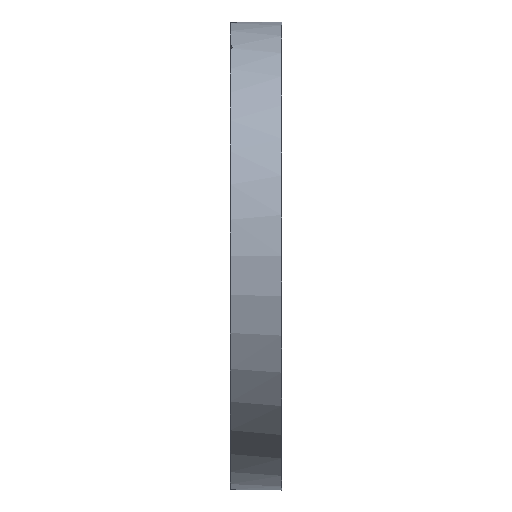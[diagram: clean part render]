
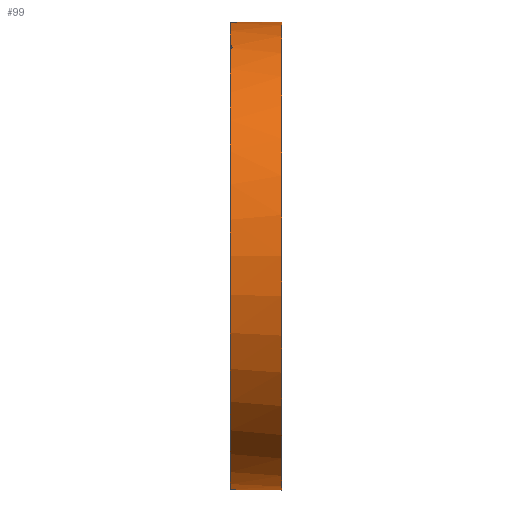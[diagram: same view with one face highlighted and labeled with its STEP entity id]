
A CAD part, top view. The second image highlights one B-rep face of the part: STEP entity #99.
In plain terms, the highlighted cylindrical face has radius 101.5 mm (diameter 203 mm), a full revolution.
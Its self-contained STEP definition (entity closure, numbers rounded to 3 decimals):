
#99 = ADVANCED_FACE( '', ( #242, #243 ), #244, .T. );
#242 = FACE_OUTER_BOUND( '', #417, .T. );
#243 = FACE_OUTER_BOUND( '', #418, .T. );
#244 = CYLINDRICAL_SURFACE( '', #419, 101.5 );
#417 = EDGE_LOOP( '', ( #634 ) );
#418 = EDGE_LOOP( '', ( #635, #636, #637, #638 ) );
#419 = AXIS2_PLACEMENT_3D( '', #639, #640, #641 );
#634 = ORIENTED_EDGE( '', *, *, #804, .T. );
#635 = ORIENTED_EDGE( '', *, *, #789, .F. );
#636 = ORIENTED_EDGE( '', *, *, #806, .F. );
#637 = ORIENTED_EDGE( '', *, *, #767, .F. );
#638 = ORIENTED_EDGE( '', *, *, #807, .F. );
#639 = CARTESIAN_POINT( '', ( -60., 0., 0. ) );
#640 = DIRECTION( '', ( 1., 0., 0. ) );
#641 = DIRECTION( '', ( 0., 0., 1. ) );
#767 = EDGE_CURVE( '', #880, #881, #882, .T. );
#789 = EDGE_CURVE( '', #917, #918, #919, .T. );
#804 = EDGE_CURVE( '', #945, #945, #946, .T. );
#806 = EDGE_CURVE( '', #881, #917, #948, .T. );
#807 = EDGE_CURVE( '', #918, #880, #949, .T. );
#880 = VERTEX_POINT( '', #1029 );
#881 = VERTEX_POINT( '', #1030 );
#882 = B_SPLINE_CURVE_WITH_KNOTS( '', 3, ( #1031, #1032, #1033, #1034, #1035, #1036, #1037, #1038, #1039, #1040, #1041, #1042, #1043, #1044, #1045, #1046, #1047, #1048 ), .UNSPECIFIED., .F., .F., ( 4, 2, 2, 2, 2, 2, 2, 2, 4 ), ( 0., 0.001, 0.001, 0.002, 0.002, 0.003, 0.003, 0.004, 0.004 ), .UNSPECIFIED. );
#917 = VERTEX_POINT( '', #1102 );
#918 = VERTEX_POINT( '', #1103 );
#919 = B_SPLINE_CURVE_WITH_KNOTS( '', 3, ( #1104, #1105, #1106, #1107, #1108, #1109, #1110, #1111, #1112, #1113, #1114, #1115, #1116, #1117, #1118, #1119, #1120, #1121 ), .UNSPECIFIED., .F., .F., ( 4, 2, 2, 2, 2, 2, 2, 2, 4 ), ( 0., 0.001, 0.001, 0.002, 0.002, 0.003, 0.003, 0.004, 0.004 ), .UNSPECIFIED. );
#945 = VERTEX_POINT( '', #1166 );
#946 = CIRCLE( '', #1167, 101.5 );
#948 = CIRCLE( '', #1169, 101.5 );
#949 = CIRCLE( '', #1170, 101.5 );
#1029 = CARTESIAN_POINT( '', ( -22.3, -89.493, -47.888 ) );
#1030 = CARTESIAN_POINT( '', ( -22.3, -91.345, -44.253 ) );
#1031 = CARTESIAN_POINT( '', ( -22.3, -89.493, -47.888 ) );
#1032 = CARTESIAN_POINT( '', ( -22.172, -89.558, -47.766 ) );
#1033 = CARTESIAN_POINT( '', ( -22.059, -89.628, -47.635 ) );
#1034 = CARTESIAN_POINT( '', ( -21.861, -89.775, -47.357 ) );
#1035 = CARTESIAN_POINT( '', ( -21.776, -89.854, -47.208 ) );
#1036 = CARTESIAN_POINT( '', ( -21.639, -90.015, -46.899 ) );
#1037 = CARTESIAN_POINT( '', ( -21.587, -90.098, -46.74 ) );
#1038 = CARTESIAN_POINT( '', ( -21.518, -90.266, -46.415 ) );
#1039 = CARTESIAN_POINT( '', ( -21.5, -90.352, -46.247 ) );
#1040 = CARTESIAN_POINT( '', ( -21.5, -90.522, -45.914 ) );
#1041 = CARTESIAN_POINT( '', ( -21.517, -90.605, -45.749 ) );
#1042 = CARTESIAN_POINT( '', ( -21.586, -90.77, -45.421 ) );
#1043 = CARTESIAN_POINT( '', ( -21.639, -90.851, -45.258 ) );
#1044 = CARTESIAN_POINT( '', ( -21.774, -91.006, -44.947 ) );
#1045 = CARTESIAN_POINT( '', ( -21.858, -91.079, -44.798 ) );
#1046 = CARTESIAN_POINT( '', ( -22.057, -91.219, -44.513 ) );
#1047 = CARTESIAN_POINT( '', ( -22.172, -91.285, -44.378 ) );
#1048 = CARTESIAN_POINT( '', ( -22.3, -91.345, -44.253 ) );
#1102 = CARTESIAN_POINT( '', ( -22.3, 89.493, 47.888 ) );
#1103 = CARTESIAN_POINT( '', ( -22.3, 91.345, 44.253 ) );
#1104 = CARTESIAN_POINT( '', ( -22.3, 89.493, 47.888 ) );
#1105 = CARTESIAN_POINT( '', ( -22.172, 89.558, 47.766 ) );
#1106 = CARTESIAN_POINT( '', ( -22.059, 89.628, 47.635 ) );
#1107 = CARTESIAN_POINT( '', ( -21.861, 89.775, 47.357 ) );
#1108 = CARTESIAN_POINT( '', ( -21.776, 89.854, 47.208 ) );
#1109 = CARTESIAN_POINT( '', ( -21.639, 90.015, 46.899 ) );
#1110 = CARTESIAN_POINT( '', ( -21.587, 90.098, 46.74 ) );
#1111 = CARTESIAN_POINT( '', ( -21.518, 90.266, 46.415 ) );
#1112 = CARTESIAN_POINT( '', ( -21.5, 90.352, 46.247 ) );
#1113 = CARTESIAN_POINT( '', ( -21.5, 90.522, 45.914 ) );
#1114 = CARTESIAN_POINT( '', ( -21.517, 90.605, 45.749 ) );
#1115 = CARTESIAN_POINT( '', ( -21.586, 90.77, 45.421 ) );
#1116 = CARTESIAN_POINT( '', ( -21.639, 90.851, 45.258 ) );
#1117 = CARTESIAN_POINT( '', ( -21.774, 91.006, 44.947 ) );
#1118 = CARTESIAN_POINT( '', ( -21.858, 91.079, 44.798 ) );
#1119 = CARTESIAN_POINT( '', ( -22.057, 91.219, 44.513 ) );
#1120 = CARTESIAN_POINT( '', ( -22.172, 91.285, 44.378 ) );
#1121 = CARTESIAN_POINT( '', ( -22.3, 91.345, 44.253 ) );
#1166 = CARTESIAN_POINT( '', ( 0., 0., 101.5 ) );
#1167 = AXIS2_PLACEMENT_3D( '', #1322, #1323, #1324 );
#1169 = AXIS2_PLACEMENT_3D( '', #1325, #1326, #1327 );
#1170 = AXIS2_PLACEMENT_3D( '', #1328, #1329, #1330 );
#1322 = CARTESIAN_POINT( '', ( 0., 0., 0. ) );
#1323 = DIRECTION( '', ( -1., 0., 0. ) );
#1324 = DIRECTION( '', ( 0., 0., 1. ) );
#1325 = CARTESIAN_POINT( '', ( -22.3, 0., 0. ) );
#1326 = DIRECTION( '', ( -1., 0., 0. ) );
#1327 = DIRECTION( '', ( 0., 0., 1. ) );
#1328 = CARTESIAN_POINT( '', ( -22.3, 0., 0. ) );
#1329 = DIRECTION( '', ( -1., 0., 0. ) );
#1330 = DIRECTION( '', ( 0., 0., 1. ) );
